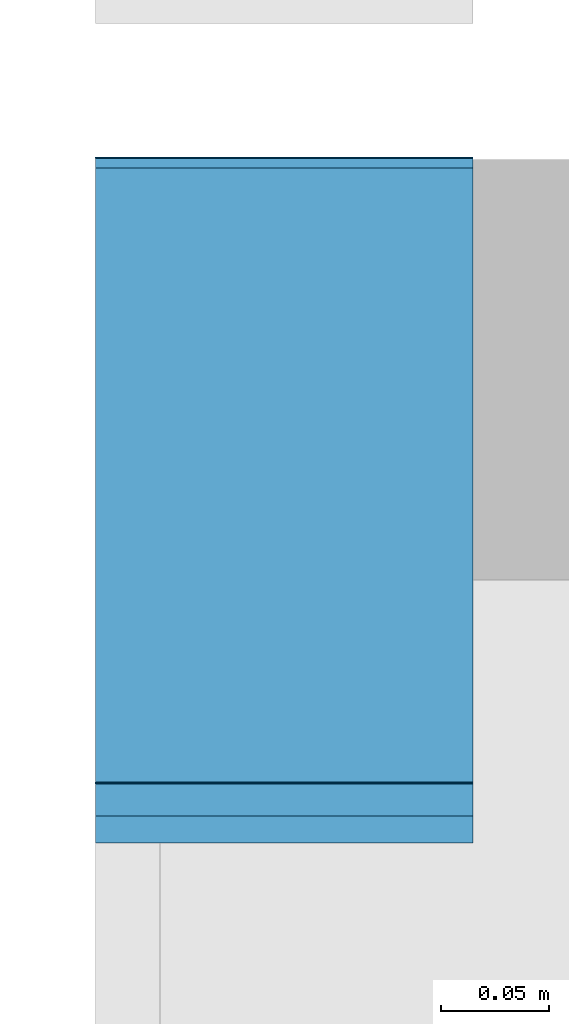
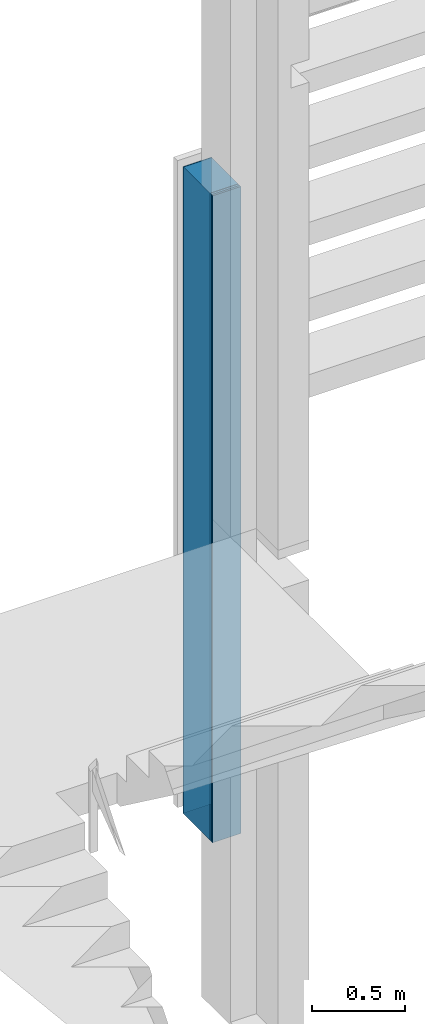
# One storey, part 62 of 94: 6 building element parts, 1 element without a shape of its own.
"""IFC2X3 building model written with IfcOpenShell, lengths in millimetres."""

import ifcopenshell
import ifcopenshell.guid

model = None  # the IFC model being written
_history = None  # IfcOwnerHistory: only IFC2X3 demands one
_inside = {}  # id of a spatial element -> (the spatial element, [elements in it])
_under = {}  # id of a project, library or spatial element -> (it, [spatial elements below it])
_declared = {}  # id of a project -> (the project, [libraries it declares])
_typed = {}  # id of a type object -> (the type object, [elements of that type])
_made_of = {}  # id of a material, layer set ... -> (it, [elements and type objects made of it])


def new_model(schema):
    """Start an empty IFC model of exactly this schema.

    Asked for "IFC4X3", IfcOpenShell would pick the latest addendum, in which some entities
    have other attributes; the version numbers below select the first issue.
    IFC2X3 requires an IfcOwnerHistory on every rooted entity: one is made here for all.
    """
    global model, _history
    if schema == "IFC4X3":
        model = ifcopenshell.file(schema_version=(4, 3, 0, 0))
    else:
        model = ifcopenshell.file(schema=schema)
    _inside.clear()
    _under.clear()
    _declared.clear()
    _typed.clear()
    _made_of.clear()
    _history = None
    if model.schema == "IFC2X3":
        org = make("IfcOrganization", Name="unknown")
        user = make(
            "IfcPersonAndOrganization",
            ThePerson=make("IfcPerson", FamilyName="unknown"),
            TheOrganization=org,
        )
        app = make(
            "IfcApplication",
            ApplicationDeveloper=org,
            Version="unknown",
            ApplicationFullName="unknown",
            ApplicationIdentifier="unknown",
        )
        _history = make(
            "IfcOwnerHistory",
            OwningUser=user,
            OwningApplication=app,
            ChangeAction="ADDED",
            CreationDate=0,
        )
    return model


def make(cls, **values):
    """One entity of the class cls with the attributes given. An attribute that is None is left unset."""
    return model.create_entity(
        cls, **{name: value for name, value in values.items() if value is not None}
    )


def entity(cls, *values):
    """Any entity or typed value of the class cls, its attributes in the order of the schema. None: left unset."""
    e = model.create_entity(cls)
    for i, value in enumerate(values):
        if value is not None:
            e[i] = value
    return e


def rooted(cls, **values):
    """An entity with a GlobalId (a new one), such as an element, a storey or a relation."""
    return make(cls, GlobalId=ifcopenshell.guid.new(), OwnerHistory=_history, **values)


def si_unit(unit_type, name, prefix=None):
    """IfcSIUnit, for example si_unit("LENGTHUNIT", "METRE", prefix="MILLI")."""
    return make("IfcSIUnit", UnitType=unit_type, Prefix=prefix, Name=name)


def converted_unit(unit_type, name, factor, base, dimensions=None, offset=None):
    """IfcConversionBasedUnit, such as the inch: factor (a typed value) times the base unit."""
    return make(
        "IfcConversionBasedUnit"
        if offset is None
        else "IfcConversionBasedUnitWithOffset",
        ConversionOffset=offset,
        Dimensions=None
        if dimensions is None
        else entity("IfcDimensionalExponents", *dimensions),
        UnitType=unit_type,
        Name=name,
        ConversionFactor=make(
            "IfcMeasureWithUnit", ValueComponent=factor, UnitComponent=base
        ),
    )


def derived_unit(unit_type, elements):
    """IfcDerivedUnit: a product of units, each with its exponent."""
    return make(
        "IfcDerivedUnit",
        Elements=[
            make("IfcDerivedUnitElement", Unit=unit, Exponent=power)
            for unit, power in elements
        ],
        UnitType=unit_type,
    )


def money_unit(currency):
    """IfcMonetaryUnit."""
    return make("IfcMonetaryUnit", Currency=currency)


def assignment(units):
    """IfcUnitAssignment: the units of a project."""
    return None if units is None else make("IfcUnitAssignment", Units=units)


def point(xyz):
    """IfcCartesianPoint."""
    return None if xyz is None else make("IfcCartesianPoint", Coordinates=xyz)


def direction(xyz):
    """IfcDirection."""
    return None if xyz is None else make("IfcDirection", DirectionRatios=xyz)


def frame(location, z_axis=None, x_axis=None):
    """IfcAxis2Placement3D, a coordinate frame: its origin and axes. An axis left out is left unset."""
    return make(
        "IfcAxis2Placement3D",
        Location=point(location),
        Axis=direction(z_axis),
        RefDirection=direction(x_axis),
    )


def origin_with_axes():
    """The frame at (0, 0, 0) with the z axis (0, 0, 1) and the x axis (1, 0, 0) written out."""
    return frame((0.0, 0.0, 0.0), z_axis=(0.0, 0.0, 1.0), x_axis=(1.0, 0.0, 0.0))


def place(relative_to, where):
    """IfcLocalPlacement: puts the frame where relative to a parent placement (None: the world)."""
    return make(
        "IfcLocalPlacement", PlacementRelTo=relative_to, RelativePlacement=where
    )


def context(
    kind, dimensions, precision=None, world=None, true_north=None, identifier=None
):
    """IfcGeometricRepresentationContext, for example the 3D "Model" context."""
    return make(
        "IfcGeometricRepresentationContext",
        ContextIdentifier=identifier,
        ContextType=kind,
        CoordinateSpaceDimension=dimensions,
        Precision=precision,
        WorldCoordinateSystem=world,
        TrueNorth=true_north,
    )


def subcontext(parent, identifier, kind, view, scale=None):
    """IfcGeometricRepresentationSubContext, for example "Body" below "Model"."""
    return make(
        "IfcGeometricRepresentationSubContext",
        ContextIdentifier=identifier,
        ContextType=kind,
        ParentContext=parent,
        TargetScale=scale,
        TargetView=view,
    )


def project(units=None, contexts=None):
    """IfcProject with its units and contexts."""
    return rooted(
        "IfcProject",
        Name="project",
        RepresentationContexts=contexts,
        UnitsInContext=assignment(units),
    )


def spatial(cls, under=None, at=None, **own):
    """A site, building, storey or space (cls), placed at a placement, below another one or the project."""
    s = rooted(cls, ObjectPlacement=at, **own)
    if under is not None:
        _under.setdefault(under.id(), (under, []))[1].append(s)
    return s


def faces_of(points, faces, orient=None, outer=None):
    """IfcFace entities. A face is a list of loops; a loop is a list of indices into points, from 0.

    orient and outer hold one flag for each loop. By default every Orientation is true, the
    first loop of a face is its IfcFaceOuterBound and the others are IfcFaceBound.
    """
    made = []
    for i, loops in enumerate(faces):
        bounds = []
        for j, loop in enumerate(loops):
            is_outer = j == 0 if outer is None else outer[i][j]
            bounds.append(
                make(
                    "IfcFaceOuterBound" if is_outer else "IfcFaceBound",
                    Bound=make("IfcPolyLoop", Polygon=[points[k] for k in loop]),
                    Orientation=True if orient is None else orient[i][j],
                )
            )
        made.append(make("IfcFace", Bounds=bounds))
    return made


def faceted_brep(points, faces, orient=None, outer=None, voids=None):
    """IfcFacetedBrep: a solid bounded by flat faces; with voids (closed shells), ...WithVoids."""
    shared = [point(p) for p in points]
    hull = make("IfcClosedShell", CfsFaces=faces_of(shared, faces, orient, outer))
    if voids is None:
        return make("IfcFacetedBrep", Outer=hull)
    return make(
        "IfcFacetedBrepWithVoids",
        Outer=hull,
        Voids=[
            make(cls, CfsFaces=faces_of(shared, fs, o, b)) for cls, fs, o, b in voids
        ],
    )


def shape(context_of_items, identifier, shape_type, items):
    """IfcShapeRepresentation: the items that make up one representation, for example the "Body"."""
    return make(
        "IfcShapeRepresentation",
        ContextOfItems=context_of_items,
        RepresentationIdentifier=identifier,
        RepresentationType=shape_type,
        Items=items,
    )


def material(Name=None, Category=None):
    """IfcMaterial."""
    return make("IfcMaterial", Name=Name, Category=Category)


def made_of(thing, what):
    """Note that an element or type object is made of a material, layer set ...; save() writes the relation."""
    if what is not None:
        _made_of.setdefault(what.id(), (what, []))[1].append(thing)
    return thing


def type_object(cls, material=None, **own):
    """A type object (cls), such as IfcWallType, which elements share."""
    return made_of(rooted(cls, **own), material)


def element(
    cls,
    number,
    at=None,
    inside=None,
    cuts=None,
    type_object=None,
    material=None,
    context=None,
    identifier="Body",
    shape_type=None,
    held_by="IfcProductDefinitionShape",
    body=None,
    shapes=None,
    **own,
):
    """One element of the class cls, such as IfcWall. Its Tag is "e" and its number.

    at: its placement. inside: the storey or other place that contains it. cuts: it is an
    opening in that element (IfcRelVoidsElement). A single representation is given by context,
    identifier, shape_type and body (its items); several are given by shapes. held_by: the class
    of the entity that holds the representations. save() writes the other relations.
    """
    e = rooted(cls, Tag="e%d" % number, ObjectPlacement=at, **own)
    if body is not None:
        shapes = [shape(context, identifier, shape_type, body)]
    if shapes is not None:
        e.Representation = make(held_by, Representations=shapes)
    if inside is not None:
        _inside.setdefault(inside.id(), (inside, []))[1].append(e)
    if cuts is not None:
        rooted(
            "IfcRelVoidsElement", RelatingBuildingElement=cuts, RelatedOpeningElement=e
        )
    if type_object is not None:
        _typed.setdefault(type_object.id(), (type_object, []))[1].append(e)
    return made_of(e, material)


def aggregate(whole, parts):
    """IfcRelAggregates: a whole, such as a stair, and the parts it consists of."""
    return rooted("IfcRelAggregates", RelatingObject=whole, RelatedObjects=parts)


def save(model, path):
    """Write the relations noted so far, then the file.

    IfcRelAggregates (storeys below a building ...), IfcRelContainedInSpatialStructure (elements
    in a storey), IfcRelDefinesByType, IfcRelAssociatesMaterial and IfcRelDeclares: one each for
    every whole, place, type object, material and project.
    """
    for whole, parts in _under.values():
        aggregate(whole, parts)
    for where, things in _inside.values():
        rooted(
            "IfcRelContainedInSpatialStructure",
            RelatedElements=things,
            RelatingStructure=where,
        )
    for kind, things in _typed.values():
        rooted("IfcRelDefinesByType", RelatedObjects=things, RelatingType=kind)
    for what, things in _made_of.values():
        rooted("IfcRelAssociatesMaterial", RelatedObjects=things, RelatingMaterial=what)
    for by, libraries in _declared.values():
        rooted("IfcRelDeclares", RelatingContext=by, RelatedDefinitions=libraries)
    model.write(path)


model = new_model("IFC2X3")

# Units and contexts
model_context = context("Model", 3, precision=0.01, world=origin_with_axes(), true_north=direction((0.0, 1.0)))
body_context = subcontext(model_context, "Body", "Model", "MODEL_VIEW")
ifc_project = project(units=[si_unit("LENGTHUNIT", "METRE", prefix="MILLI"), si_unit("AREAUNIT", "SQUARE_METRE"), si_unit("VOLUMEUNIT", "CUBIC_METRE"), converted_unit("PLANEANGLEUNIT", "DEGREE", entity("IfcPlaneAngleMeasure", 0.0174532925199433), si_unit("PLANEANGLEUNIT", "RADIAN"), dimensions=[0, 0, 0, 0, 0, 0, 0]), money_unit("EUR"), converted_unit("TIMEUNIT", "Year", entity("IfcTimeMeasure", 31557600.0), si_unit("TIMEUNIT", "SECOND"), dimensions=[0, 0, 1, 0, 0, 0, 0]), si_unit("MASSUNIT", "GRAM", prefix="KILO"), si_unit("THERMODYNAMICTEMPERATUREUNIT", "DEGREE_CELSIUS"), si_unit("LUMINOUSINTENSITYUNIT", "LUMEN"), si_unit("ENERGYUNIT", "JOULE", prefix="MEGA"), derived_unit("THERMALCONDUCTANCEUNIT", [(si_unit("POWERUNIT", "WATT"), 1), (si_unit("LENGTHUNIT", "METRE"), -1), (si_unit("THERMODYNAMICTEMPERATUREUNIT", "KELVIN"), -1)]), derived_unit("SPECIFICHEATCAPACITYUNIT", [(si_unit("ENERGYUNIT", "JOULE"), 1), (si_unit("MASSUNIT", "GRAM", prefix="KILO"), -1), (si_unit("THERMODYNAMICTEMPERATUREUNIT", "KELVIN"), -1)]), derived_unit("MASSDENSITYUNIT", [(si_unit("MASSUNIT", "GRAM", prefix="KILO"), 1), (si_unit("VOLUMEUNIT", "CUBIC_METRE"), -1)])], contexts=[model_context])

# Site, building, storey
site_placement = place(None, origin_with_axes())
site = spatial("IfcSite", under=ifc_project, at=site_placement, Name="<site naam>", CompositionType="ELEMENT")
building_placement = place(site_placement, origin_with_axes())
building = spatial("IfcBuilding", under=site, at=building_placement, Name="<Naam gebouw>", CompositionType="ELEMENT")
storey_placement = place(building_placement, frame((0.0, 0.0, 4250.0), z_axis=(0.0, 0.0, 1.0), x_axis=(1.0, 0.0, 0.0)))
storey = spatial("IfcBuildingStorey", under=building, at=storey_placement, Name="01 1e verdieping", CompositionType="ELEMENT", Elevation=4250.0)

# Wall, building element parts
wall_type = type_object("IfcWallType", Name="HSB_285 gevelbeplating 420", PredefinedType="NOTDEFINED")
wall_placement = place(storey_placement, frame((51824.99946021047, 20298.00000000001, 0.0), z_axis=(0.0, 0.0, 1.0), x_axis=(1.0, 0.0, 0.0)))
wall = element("IfcWall", 1, at=wall_placement, inside=storey, type_object=wall_type, Name="21_Binnenwand_HSB_285")
ifc_material_1 = material(Name="folie_dampopen")
building_element_part_1_placement = place(wall_placement, origin_with_axes())
building_element_part_1 = element("IfcBuildingElementPart", 2, at=building_element_part_1_placement, material=ifc_material_1, Name="folie_dampopen", context=body_context, shape_type="Brep", body=[
    faceted_brep([(175.0000141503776, -102.4999999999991, 4250.0), (175.0000141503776, -102.0000000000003, 4250.0), (0.0, -102.0000000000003, 4250.0), (0.0, -102.4999999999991, 4250.0), (175.0000141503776, -102.4999999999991, 0.0), (175.0000141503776, -102.0000000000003, 0.0), (0.0, -102.0000000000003, 0.0), (0.0, -102.4999999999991, 0.0)], [[[0, 1, 2, 3]], [[0, 4, 5, 1]], [[1, 5, 6, 2]], [[3, 2, 6, 7]], [[4, 0, 3, 7]], [[5, 4, 7, 6]]]),
])
ifc_material_2 = material(Name="brandwerende_bekleding")
building_element_part_2_placement = place(wall_placement, origin_with_axes())
building_element_part_2 = element("IfcBuildingElementPart", 3, at=building_element_part_2_placement, material=ifc_material_2, Name="brandwerende_bekleding", context=body_context, shape_type="Brep", body=[
    faceted_brep([(175.0000141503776, -106.9999999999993, 4250.0), (175.0000141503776, -102.4999999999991, 4250.0), (0.0, -102.4999999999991, 4250.0), (0.0, -106.9999999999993, 4250.0), (175.0000141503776, -106.9999999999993, 0.0), (175.0000141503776, -102.4999999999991, 0.0), (0.0, -102.4999999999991, 0.0), (0.0, -106.9999999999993, 0.0)], [[[0, 1, 2, 3]], [[0, 4, 5, 1]], [[1, 5, 6, 2]], [[3, 2, 6, 7]], [[4, 0, 3, 7]], [[5, 4, 7, 6]]]),
])
ifc_material_3 = material(Name="isolatie_houtvezel")
building_element_part_3_placement = place(wall_placement, origin_with_axes())
building_element_part_3 = element("IfcBuildingElementPart", 4, at=building_element_part_3_placement, material=ifc_material_3, Name="isolatie_houtvezel", context=body_context, shape_type="Brep", body=[
    faceted_brep([(175.0000141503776, -391.9999999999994, 4250.0), (175.0000141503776, -106.9999999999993, 4250.0), (0.0, -106.9999999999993, 4250.0), (0.0, -391.9999999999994, 4250.0), (175.0000141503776, -391.9999999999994, 0.0), (175.0000141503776, -106.9999999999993, 0.0), (0.0, -106.9999999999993, 0.0), (0.0, -391.9999999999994, 0.0)], [[[0, 1, 2, 3]], [[0, 4, 5, 1]], [[1, 5, 6, 2]], [[3, 2, 6, 7]], [[4, 0, 3, 7]], [[5, 4, 7, 6]]]),
])
ifc_material_4 = material(Name="folie_dampdicht")
building_element_part_4_placement = place(wall_placement, origin_with_axes())
building_element_part_4 = element("IfcBuildingElementPart", 5, at=building_element_part_4_placement, material=ifc_material_4, Name="folie_dampdicht", context=body_context, shape_type="Brep", body=[
    faceted_brep([(175.0000141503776, -392.4999999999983, 4250.0), (175.0000141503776, -391.9999999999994, 4250.0), (0.0, -391.9999999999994, 4250.0), (0.0, -392.4999999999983, 4250.0), (175.0000141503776, -392.4999999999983, 0.0), (175.0000141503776, -391.9999999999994, 0.0), (0.0, -391.9999999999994, 0.0), (0.0, -392.4999999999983, 0.0)], [[[0, 1, 2, 3]], [[0, 4, 5, 1]], [[1, 5, 6, 2]], [[3, 2, 6, 7]], [[4, 0, 3, 7]], [[5, 4, 7, 6]]]),
])
ifc_material_5 = material(Name="gipsplaat")
building_element_part_5_placement = place(wall_placement, origin_with_axes())
building_element_part_5 = element("IfcBuildingElementPart", 6, at=building_element_part_5_placement, material=ifc_material_5, Name="gipsplaat", context=body_context, shape_type="Brep", body=[
    faceted_brep([(175.0000141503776, -419.9999999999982, 4250.0), (175.0000141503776, -407.4999999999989, 4250.0), (0.0, -407.4999999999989, 4250.0), (0.0, -419.9999999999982, 4250.0), (175.0000141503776, -420.0000000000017, 0.0), (175.0000141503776, -407.4999999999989, 0.0), (0.0, -407.4999999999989, 0.0), (0.0, -420.0000000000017, 0.0)], [[[0, 1, 2, 3]], [[0, 4, 5, 1]], [[1, 5, 6, 2]], [[3, 2, 6, 7]], [[4, 0, 3, 7]], [[5, 4, 7, 6]]]),
])
ifc_material_6 = material(Name="hout_OSB")
building_element_part_6_placement = place(wall_placement, origin_with_axes())
building_element_part_6 = element("IfcBuildingElementPart", 7, at=building_element_part_6_placement, material=ifc_material_6, Name="hout_OSB", context=body_context, shape_type="Brep", body=[
    faceted_brep([(175.0000141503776, -407.4999999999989, 4250.0), (175.0000141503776, -392.4999999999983, 4250.0), (0.0, -392.4999999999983, 4250.0), (0.0, -407.4999999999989, 4250.0), (175.0000141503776, -407.4999999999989, 0.0), (175.0000141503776, -392.4999999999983, 0.0), (0.0, -392.4999999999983, 0.0), (0.0, -407.4999999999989, 0.0)], [[[0, 1, 2, 3]], [[0, 4, 5, 1]], [[1, 5, 6, 2]], [[3, 2, 6, 7]], [[4, 0, 3, 7]], [[5, 4, 7, 6]]]),
])
aggregate(wall, [building_element_part_1, building_element_part_2, building_element_part_3, building_element_part_4, building_element_part_5, building_element_part_6])

save(model, "model.ifc")
